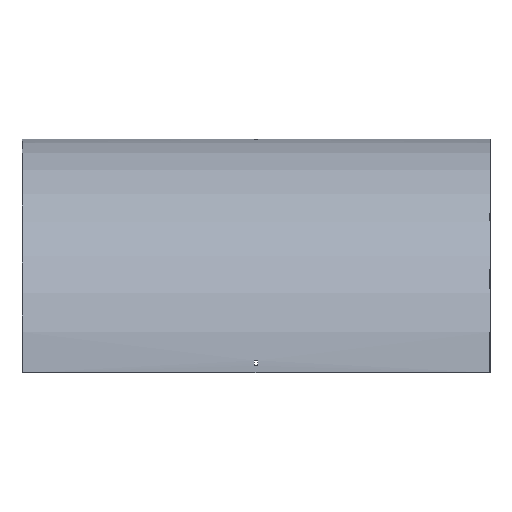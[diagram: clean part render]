
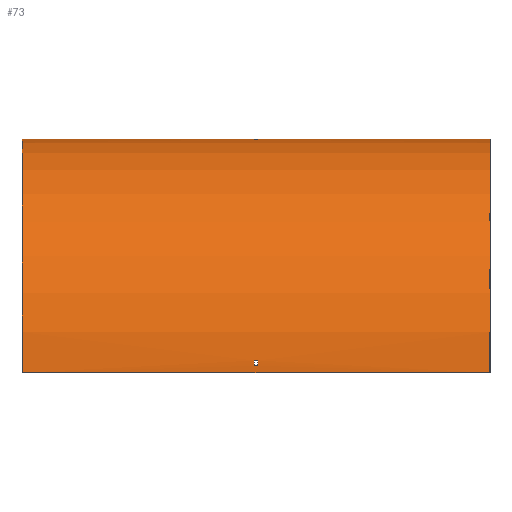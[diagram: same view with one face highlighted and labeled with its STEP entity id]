
A CAD part, top view. The second image highlights one B-rep face of the part: STEP entity #73.
In plain terms, the highlighted cylindrical face has radius 401.5 mm (diameter 803 mm), a partial arc.
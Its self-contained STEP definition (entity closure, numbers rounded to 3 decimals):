
#6 = CARTESIAN_POINT ( 'NONE',  ( 401.5, 0., 0. ) ) ;
#19 = EDGE_CURVE ( 'NONE', #584, #493, #271, .T. ) ;
#25 = DIRECTION ( 'NONE',  ( 1., 0., 0. ) ) ;
#42 = CARTESIAN_POINT ( 'NONE',  ( 3.25, -401.5, 0. ) ) ;
#47 = LINE ( 'NONE', #380, #572 ) ;
#64 = CIRCLE ( 'NONE', #415, 401.5 ) ;
#73 = ADVANCED_FACE ( 'NONE', ( #606, #371, #522 ), #460, .T. ) ;
#80 = AXIS2_PLACEMENT_3D ( 'NONE', #181, #423, #375 ) ;
#81 = DIRECTION ( 'NONE',  ( 0., 0., 1. ) ) ;
#100 = ORIENTED_EDGE ( 'NONE', *, *, #255, .T. ) ;
#105 = CARTESIAN_POINT ( 'NONE',  ( 3.25, -0.55, 21. ) ) ;
#115 = VERTEX_POINT ( 'NONE', #555 ) ;
#118 = CARTESIAN_POINT ( 'NONE',  ( 3.25, -401.5, 0. ) ) ;
#119 = VERTEX_POINT ( 'NONE', #519 ) ;
#132 = VECTOR ( 'NONE', #585, 1000. ) ;
#133 = CARTESIAN_POINT ( 'NONE',  ( 401.5, -389.5, 401.321 ) ) ;
#134 = CARTESIAN_POINT ( 'NONE',  ( -401.5, -401.5, 401.5 ) ) ;
#141 = VERTEX_POINT ( 'NONE', #105 ) ;
#142 = DIRECTION ( 'NONE',  ( -1., 0., 0. ) ) ;
#146 = DIRECTION ( 'NONE',  ( 0., 0., -1. ) ) ;
#155 = CIRCLE ( 'NONE', #340, 401.5 ) ;
#156 = VECTOR ( 'NONE', #467, 1000. ) ;
#164 = EDGE_CURVE ( 'NONE', #261, #345, #446, .T. ) ;
#171 = DIRECTION ( 'NONE',  ( -1., 0., 0. ) ) ;
#174 = ORIENTED_EDGE ( 'NONE', *, *, #228, .T. ) ;
#181 = CARTESIAN_POINT ( 'NONE',  ( 401.5, -401.5, 0. ) ) ;
#187 = CARTESIAN_POINT ( 'NONE',  ( -3.25, -0.55, 21. ) ) ;
#195 = EDGE_CURVE ( 'NONE', #320, #115, #494, .T. ) ;
#196 = VECTOR ( 'NONE', #542, 1000. ) ;
#207 = ORIENTED_EDGE ( 'NONE', *, *, #164, .F. ) ;
#211 = EDGE_LOOP ( 'NONE', ( #248, #100, #174, #488 ) ) ;
#213 = DIRECTION ( 'NONE',  ( 0., 0., 1. ) ) ;
#228 = EDGE_CURVE ( 'NONE', #297, #570, #318, .T. ) ;
#231 = DIRECTION ( 'NONE',  ( -1., 0., 0. ) ) ;
#235 = AXIS2_PLACEMENT_3D ( 'NONE', #118, #25, #595 ) ;
#236 = ORIENTED_EDGE ( 'NONE', *, *, #338, .F. ) ;
#248 = ORIENTED_EDGE ( 'NONE', *, *, #274, .T. ) ;
#254 = CARTESIAN_POINT ( 'NONE',  ( 3.25, -389.5, 401.321 ) ) ;
#255 = EDGE_CURVE ( 'NONE', #283, #297, #64, .T. ) ;
#260 = CARTESIAN_POINT ( 'NONE',  ( 3.25, -0.179, 12. ) ) ;
#261 = VERTEX_POINT ( 'NONE', #531 ) ;
#269 = DIRECTION ( 'NONE',  ( 1., 0., 0. ) ) ;
#271 = LINE ( 'NONE', #133, #156 ) ;
#274 = EDGE_CURVE ( 'NONE', #141, #283, #47, .T. ) ;
#282 = CIRCLE ( 'NONE', #536, 401.5 ) ;
#283 = VERTEX_POINT ( 'NONE', #187 ) ;
#285 = AXIS2_PLACEMENT_3D ( 'NONE', #313, #171, #81 ) ;
#286 = VECTOR ( 'NONE', #502, 1000. ) ;
#297 = VERTEX_POINT ( 'NONE', #476 ) ;
#313 = CARTESIAN_POINT ( 'NONE',  ( 401.5, -401.5, 0. ) ) ;
#318 = LINE ( 'NONE', #412, #382 ) ;
#320 = VERTEX_POINT ( 'NONE', #605 ) ;
#322 = DIRECTION ( 'NONE',  ( -1., 0., 0. ) ) ;
#337 = DIRECTION ( 'NONE',  ( 0., 0., 1. ) ) ;
#338 = EDGE_CURVE ( 'NONE', #493, #320, #282, .T. ) ;
#340 = AXIS2_PLACEMENT_3D ( 'NONE', #501, #539, #146 ) ;
#343 = EDGE_CURVE ( 'NONE', #115, #584, #516, .T. ) ;
#345 = VERTEX_POINT ( 'NONE', #134 ) ;
#348 = EDGE_LOOP ( 'NONE', ( #393, #358, #236, #355 ) ) ;
#350 = CIRCLE ( 'NONE', #80, 401.5 ) ;
#355 = ORIENTED_EDGE ( 'NONE', *, *, #19, .F. ) ;
#358 = ORIENTED_EDGE ( 'NONE', *, *, #195, .F. ) ;
#371 = FACE_BOUND ( 'NONE', #211, .T. ) ;
#372 = DIRECTION ( 'NONE',  ( 1., 0., 0. ) ) ;
#375 = DIRECTION ( 'NONE',  ( 0., 0., -1. ) ) ;
#380 = CARTESIAN_POINT ( 'NONE',  ( 401.5, -0.55, 21. ) ) ;
#382 = VECTOR ( 'NONE', #269, 1000. ) ;
#389 = EDGE_CURVE ( 'NONE', #511, #261, #350, .T. ) ;
#393 = ORIENTED_EDGE ( 'NONE', *, *, #343, .F. ) ;
#394 = ORIENTED_EDGE ( 'NONE', *, *, #475, .T. ) ;
#399 = CARTESIAN_POINT ( 'NONE',  ( 401.5, -401.5, 401.5 ) ) ;
#411 = CARTESIAN_POINT ( 'NONE',  ( -3.25, -389.5, 401.321 ) ) ;
#412 = CARTESIAN_POINT ( 'NONE',  ( 401.5, -0.179, 12. ) ) ;
#415 = AXIS2_PLACEMENT_3D ( 'NONE', #418, #322, #213 ) ;
#418 = CARTESIAN_POINT ( 'NONE',  ( -3.25, -401.5, 0. ) ) ;
#423 = DIRECTION ( 'NONE',  ( 1., 0., 0. ) ) ;
#439 = LINE ( 'NONE', #528, #196 ) ;
#446 = LINE ( 'NONE', #399, #132 ) ;
#455 = ORIENTED_EDGE ( 'NONE', *, *, #389, .F. ) ;
#456 = EDGE_CURVE ( 'NONE', #119, #345, #155, .T. ) ;
#460 = CYLINDRICAL_SURFACE ( 'NONE', #285, 401.5 ) ;
#462 = AXIS2_PLACEMENT_3D ( 'NONE', #526, #372, #562 ) ;
#467 = DIRECTION ( 'NONE',  ( 1., 0., 0. ) ) ;
#475 = EDGE_CURVE ( 'NONE', #511, #119, #439, .T. ) ;
#476 = CARTESIAN_POINT ( 'NONE',  ( -3.25, -0.179, 12. ) ) ;
#488 = ORIENTED_EDGE ( 'NONE', *, *, #563, .T. ) ;
#493 = VERTEX_POINT ( 'NONE', #254 ) ;
#494 = LINE ( 'NONE', #544, #286 ) ;
#501 = CARTESIAN_POINT ( 'NONE',  ( -401.5, -401.5, 0. ) ) ;
#502 = DIRECTION ( 'NONE',  ( -1., 0., 0. ) ) ;
#511 = VERTEX_POINT ( 'NONE', #6 ) ;
#516 = CIRCLE ( 'NONE', #462, 401.5 ) ;
#519 = CARTESIAN_POINT ( 'NONE',  ( -401.5, 0., 0. ) ) ;
#522 = FACE_BOUND ( 'NONE', #348, .T. ) ;
#526 = CARTESIAN_POINT ( 'NONE',  ( -3.25, -401.5, 0. ) ) ;
#528 = CARTESIAN_POINT ( 'NONE',  ( 401.5, 0., 0. ) ) ;
#531 = CARTESIAN_POINT ( 'NONE',  ( 401.5, -401.5, 401.5 ) ) ;
#536 = AXIS2_PLACEMENT_3D ( 'NONE', #42, #142, #337 ) ;
#538 = EDGE_LOOP ( 'NONE', ( #541, #207, #455, #394 ) ) ;
#539 = DIRECTION ( 'NONE',  ( 1., 0., 0. ) ) ;
#541 = ORIENTED_EDGE ( 'NONE', *, *, #456, .T. ) ;
#542 = DIRECTION ( 'NONE',  ( -1., 0., 0. ) ) ;
#544 = CARTESIAN_POINT ( 'NONE',  ( 401.5, -380.5, 400.95 ) ) ;
#551 = CIRCLE ( 'NONE', #235, 401.5 ) ;
#555 = CARTESIAN_POINT ( 'NONE',  ( -3.25, -380.5, 400.95 ) ) ;
#562 = DIRECTION ( 'NONE',  ( 0., 1., 0. ) ) ;
#563 = EDGE_CURVE ( 'NONE', #570, #141, #551, .T. ) ;
#570 = VERTEX_POINT ( 'NONE', #260 ) ;
#572 = VECTOR ( 'NONE', #231, 1000. ) ;
#584 = VERTEX_POINT ( 'NONE', #411 ) ;
#585 = DIRECTION ( 'NONE',  ( -1., 0., 0. ) ) ;
#595 = DIRECTION ( 'NONE',  ( 0., 0., -1. ) ) ;
#605 = CARTESIAN_POINT ( 'NONE',  ( 3.25, -380.5, 400.95 ) ) ;
#606 = FACE_OUTER_BOUND ( 'NONE', #538, .T. ) ;
